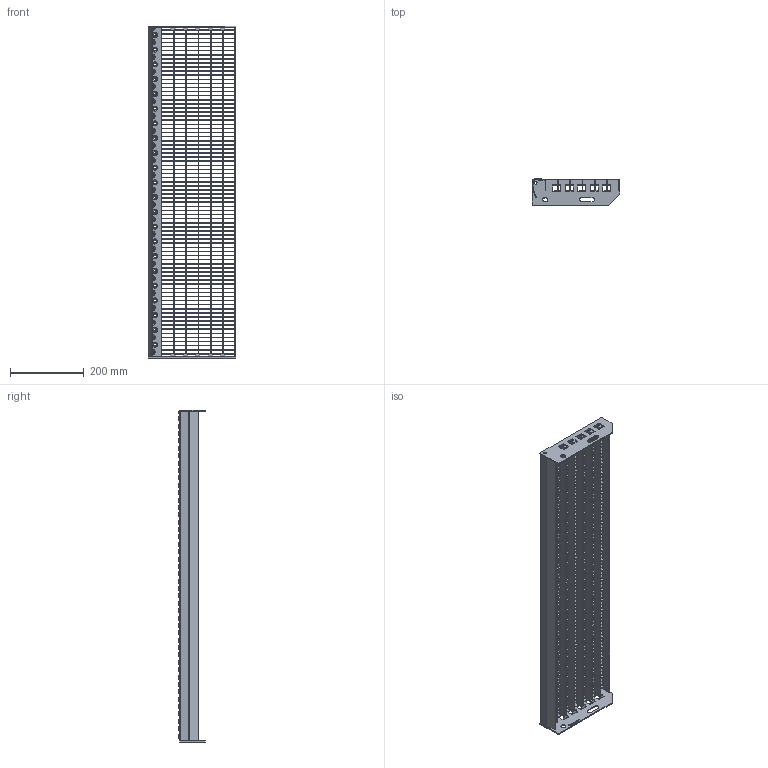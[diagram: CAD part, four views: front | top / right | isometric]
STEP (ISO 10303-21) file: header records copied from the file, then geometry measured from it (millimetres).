
FILE_DESCRIPTION(/* description */ ('','CAx-IF Rec.Pracs.---Representation and Presentation of Product Manufacturing Information (PMI)---3.8---2014-02-18'),/* implementation_level */ '2;1');
FILE_NAME(/* name */ 'C:\Users\phaverkotte\Desktop\Lager STEP\P-Stufen\P 230-33 11-2\P 230-33 11-2 900mm x 240mm.stp',/* time_stamp */ '2018-03-24T11:06:36+01:00',/* author */ ('phaverkotte'),/* organization */ (''),/* preprocessor_version */ 'ST-DEVELOPER v16.13',/* originating_system */ 'Autodesk Inventor 2018',/* authorisation */ '');
FILE_SCHEMA (('AP242_MANAGED_MODEL_BASED_3D_ENGINEERING_MIM_LF { 1 0 10303 442 1 1 4 }'));
Length unit declared in the file: millimetre
Products named in the file (8): Schodišťový stupeň přím
ý lisovaný; Seitenplatte ausgeklinkt links; Seitenplatte 240 ausgeklinkt extern rechts; Schod nášlap; P Rošt schodu; Querstab; P Nosný pás; Hinteres Flach
Assembly tree (91 placements, depth 3):
  Schodišťový stupeň přím
ý lisovaný
    Seitenplatte ausgeklinkt links
    Seitenplatte 240 ausgeklinkt extern rechts
    Schod nášlap
    P Rošt schodu
      Querstab  x80
      P Nosný pás  x6
      Hinteres Flach
Bounding box: 236.98 x 72.75 x 900 mm (x, y, z)
Volume: 869049.7 mm3; surface area: 965520.8 mm2
Topology: 90 solids, 90 shells, 3040 faces, 8426 edges, 5583 vertices
Faces by surface type: plane 2728, cone 135, cylinder 112, torus 45, bspline 20
Full cylindrical faces by diameter (mm): 8 x2, 13 x2
Entity records: 32807 total; most frequent: CARTESIAN_POINT 8546, DIRECTION 4784, ORIENTED_EDGE 4698, EDGE_CURVE 2349, LINE 1852, VECTOR 1852, VERTEX_POINT 1622, AXIS2_PLACEMENT_3D 1466
